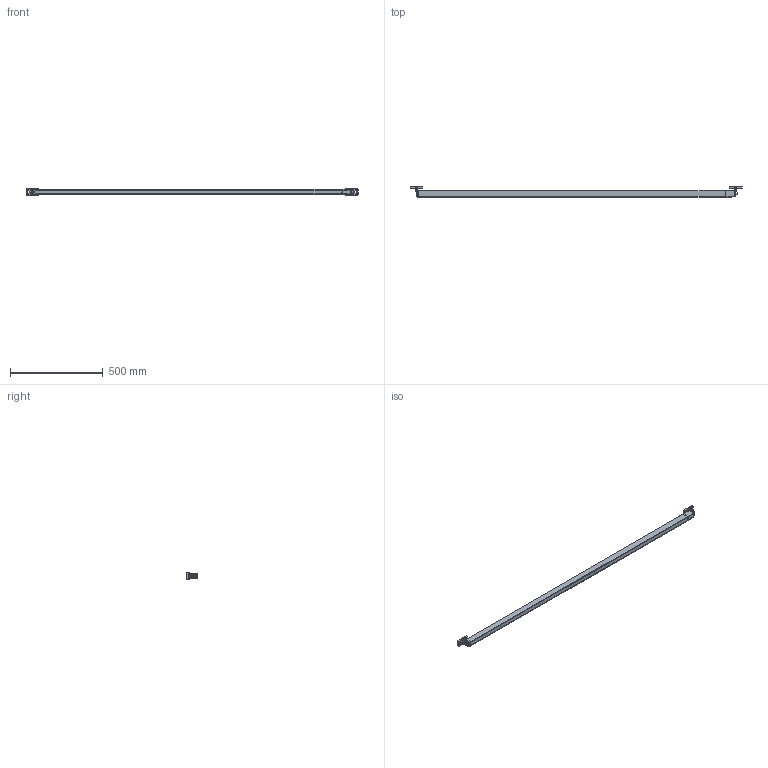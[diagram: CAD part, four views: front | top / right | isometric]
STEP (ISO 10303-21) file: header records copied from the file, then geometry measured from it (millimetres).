
FILE_DESCRIPTION((''),'2;1');
FILE_NAME('M:\INVENTORjob\Konstruktion\LV6036\Freigabe\Bauraummodelle\Geräte\MLC_T_1650.stp','2012-12-06T11:28:11',('seisen'),(''),'Autodesk Inventor 2009','Autodesk Inventor 2009','');
FILE_SCHEMA(('AUTOMOTIVE_DESIGN { 1 0 10303 214 1 1 1 1 }'));
Length unit declared in the file: millimetre
Products named in the file (13): MLC_T_1650; Anschlusskappe_T; Profil MLC 1650; Endkappe_T; BT-R_Zubehör; Wandteil_Zubehör; Klemmring_BT-R_Zubehör; DIN 912 - ersetzt durch DIN EN ISO 4762 M5 x 12; DIN 934 - ersetzt durch DIN EN 24032/28673/28674 M5; DIN 6912 M5 x 30; Zylinder_Zubehör; DIN 7991 - ersetzt durch DIN EN ISO 10642 M6  x  12; Nutenstein M6
Assembly tree (16 placements, depth 3):
  MLC_T_1650
    Anschlusskappe_T
    Profil MLC 1650
    Endkappe_T
    BT-R_Zubehör  x2
      Wandteil_Zubehör
      Klemmring_BT-R_Zubehör
      DIN 912 - ersetzt durch DIN EN ISO 4762 M5 x 12
      DIN 934 - ersetzt durch DIN EN 24032/28673/28674 M5
      DIN 6912 M5 x 30
    Zylinder_Zubehör
    DIN 7991 - ersetzt durch DIN EN ISO 10642 M6  x  12
    Nutenstein M6  x2
Bounding box: 1789.91 x 55.35 x 34 mm (x, y, z)
Volume: 1577490.3 mm3; surface area: 295505.5 mm2
Topology: 21 solids, 21 shells, 779 faces, 2035 edges, 1285 vertices
Faces by surface type: plane 325, cylinder 244, bspline 119, torus 42, cone 33, sphere 16
Full cylindrical faces by diameter (mm): 2.5 x2, 4.65 x2, 5 x12, 5.18 x2, 5.55 x2, 6 x1, 6.2 x9, 8.5 x4, 8.6 x2, 11.34 x1, 12 x1
Entity records: 12356 total; most frequent: CARTESIAN_POINT 4243, ORIENTED_EDGE 1642, DIRECTION 1525, EDGE_CURVE 821, AXIS2_PLACEMENT_3D 552, VERTEX_POINT 549, VECTOR 421, LINE 421
